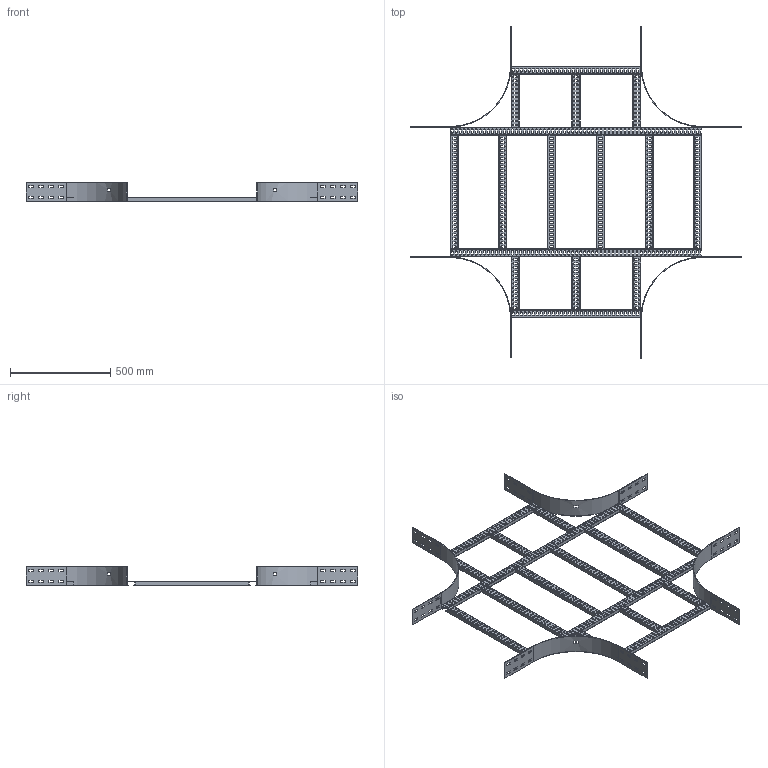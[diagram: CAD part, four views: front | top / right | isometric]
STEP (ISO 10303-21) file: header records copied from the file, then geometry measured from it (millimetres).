
FILE_DESCRIPTION(/* description */ ('','CAx-IF Rec.Pracs.---Representation and Presentation of Product Manufacturing Information (PMI)---4.0---2014-10-13'),/* implementation_level */ '2;1');
FILE_NAME(/* name */ 'Eurostrut_ECO100-600-300_Crossover for Cable Ladder ECL.step',/* time_stamp */ '2026-09-03T13:27:49+02:00',/* author */ (''),/* organization */ (''),/* preprocessor_version */ 'ST-DEVELOPER v20.1',/* originating_system */ 'Autodesk Revit 2027 27.2.0.39',/* authorisation */ '');
FILE_SCHEMA (('AP242_MANAGED_MODEL_BASED_3D_ENGINEERING_MIM_LF { 1 0 10303 442 2 1 4 }'));
Products named in the file (10): TopLevelAssembly; Sweep; Sweep_1; Sweep_2; Sweep_3; Eurostrut_Cable Ladder_Rung_With slots; Eurostrut_Cable Ladder_Rung_With slots_1; Eurostrut_Cable Ladder_Rung Array Straight_Slotted; Eurostrut_Cable Ladder_Rung Array Straight_Slotted_1; Eurostrut_Cable Ladder_Accessory End_54-94-142
Assembly tree (19 placements, depth 2):
  TopLevelAssembly
    Sweep
    Sweep_1
    Eurostrut_Cable Ladder_Rung_With slots  x2
    Eurostrut_Cable Ladder_Rung_With slots_1  x2
    Sweep_2
    Sweep_3
    Eurostrut_Cable Ladder_Rung Array Straight_Slotted
    Eurostrut_Cable Ladder_Rung Array Straight_Slotted_1  x2
    Eurostrut_Cable Ladder_Accessory End_54-94-142  x8
Bounding box: 1652 x 1652 x 94 mm (x, y, z)
Volume: 2011387.1 mm3; surface area: 2165036.7 mm2
Topology: 28 solids, 28 shells, 2376 faces, 6960 edges, 4640 vertices
Faces by surface type: plane 1432, bspline 872, cylinder 72
Entity records: 67956 total; most frequent: CARTESIAN_POINT 27441, ORIENTED_EDGE 8712, DIRECTION 7502, EDGE_CURVE 4356, LINE 3028, VECTOR 3028, VERTEX_POINT 2904, AXIS2_PLACEMENT_3D 2237
